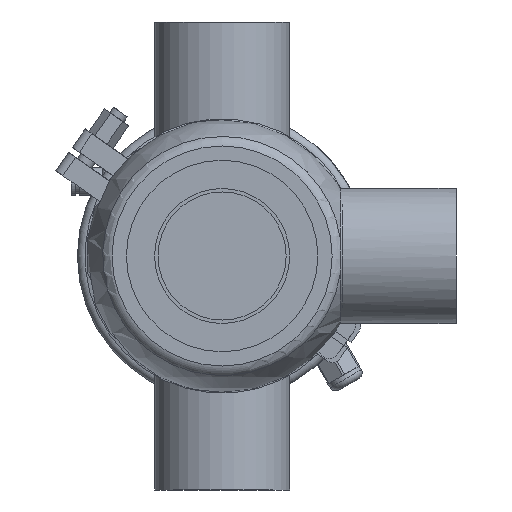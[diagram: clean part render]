
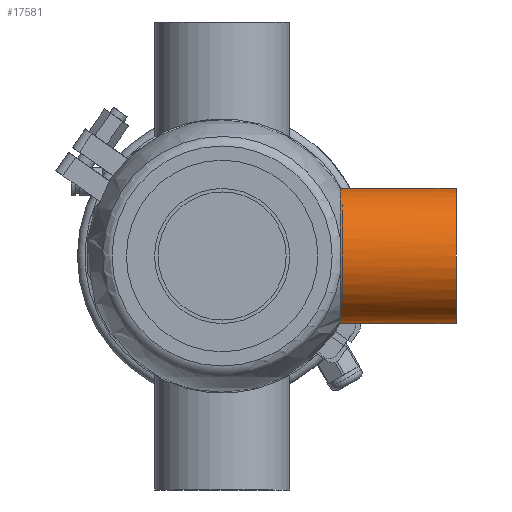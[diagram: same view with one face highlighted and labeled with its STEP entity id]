
A CAD part, front view. The second image highlights one B-rep face of the part: STEP entity #17581.
In plain terms, the highlighted cylindrical face has radius 31.75 mm (diameter 63.5 mm), a full revolution.
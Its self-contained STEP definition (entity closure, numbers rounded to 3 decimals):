
#1953 = FACE_OUTER_BOUND ( 'NONE', #54781, .T. ) ;
#4187 = CARTESIAN_POINT ( 'NONE',  ( 55.569, -30.657, 8.258 ) ) ;
#6865 = CARTESIAN_POINT ( 'NONE',  ( 0., 0., 0. ) ) ;
#7739 = CARTESIAN_POINT ( 'NONE',  ( 55.447, -31.729, -1.361 ) ) ;
#7885 = CARTESIAN_POINT ( 'NONE',  ( 55.569, -30.657, -8.258 ) ) ;
#8963 = CARTESIAN_POINT ( 'NONE',  ( 55.468, -31.657, 2.799 ) ) ;
#11130 = EDGE_CURVE ( 'NONE', #43494, #29625, #55368, .T. ) ;
#14443 = DIRECTION ( 'NONE',  ( 0., 0., 1. ) ) ;
#15665 = CARTESIAN_POINT ( 'NONE',  ( 110., 0., 0. ) ) ;
#17088 = CARTESIAN_POINT ( 'NONE',  ( 55.569, -31.022, 6.904 ) ) ;
#17581 = ADVANCED_FACE ( 'NONE', ( #59575, #1953 ), #58660, .T. ) ;
#17997 = ORIENTED_EDGE ( 'NONE', *, *, #58810, .T. ) ;
#18308 = CARTESIAN_POINT ( 'NONE',  ( 55.569, -31.022, -6.903 ) ) ;
#20779 = EDGE_LOOP ( 'NONE', ( #26779, #27897 ) ) ;
#22063 = CARTESIAN_POINT ( 'NONE',  ( 55.468, -31.638, -2.759 ) ) ;
#22374 = CARTESIAN_POINT ( 'NONE',  ( 55.532, -31.293, 5.541 ) ) ;
#25777 = DIRECTION ( 'NONE',  ( 0., 0., 1. ) ) ;
#26200 = DIRECTION ( 'NONE',  ( 0., 0., 1. ) ) ;
#26779 = ORIENTED_EDGE ( 'NONE', *, *, #11130, .T. ) ;
#27249 = CARTESIAN_POINT ( 'NONE',  ( 55.569, -30.657, 8.258 ) ) ;
#27869 = CARTESIAN_POINT ( 'NONE',  ( 55.442, -31.749, 1.419 ) ) ;
#27897 = ORIENTED_EDGE ( 'NONE', *, *, #52022, .T. ) ;
#29625 = VERTEX_POINT ( 'NONE', #4187 ) ;
#32533 = CARTESIAN_POINT ( 'NONE',  ( 55.442, -31.751, -0.664 ) ) ;
#34283 = AXIS2_PLACEMENT_3D ( 'NONE', #15665, #47831, #14443 ) ;
#35030 = DIRECTION ( 'NONE',  ( -1., 0., 0. ) ) ;
#35520 = AXIS2_PLACEMENT_3D ( 'NONE', #46337, #46027, #26200 ) ;
#36538 = CARTESIAN_POINT ( 'NONE',  ( 55.532, -31.295, -5.534 ) ) ;
#41374 = B_SPLINE_CURVE_WITH_KNOTS ( 'NONE', 3,
 ( #27249, #17088, #22374, #8963, #27869, #32533, #7739, #22063, #45560, #36538, #18308, #51489 ),
 .UNSPECIFIED., .F., .F.,
 ( 4, 2, 2, 2, 2, 4 ),
 ( 0., 0.004, 0.008, 0.01, 0.012, 0.017 ),
 .UNSPECIFIED. ) ;
#43494 = VERTEX_POINT ( 'NONE', #7885 ) ;
#44723 = AXIS2_PLACEMENT_3D ( 'NONE', #6865, #35030, #25777 ) ;
#45560 = CARTESIAN_POINT ( 'NONE',  ( 55.483, -31.569, -3.456 ) ) ;
#46027 = DIRECTION ( 'NONE',  ( 1., 0., 0. ) ) ;
#46337 = CARTESIAN_POINT ( 'NONE',  ( 55.569, 0., 0. ) ) ;
#47682 = CARTESIAN_POINT ( 'NONE',  ( 110., 0., 31.75 ) ) ;
#47831 = DIRECTION ( 'NONE',  ( -1., 0., 0. ) ) ;
#51489 = CARTESIAN_POINT ( 'NONE',  ( 55.569, -30.657, -8.258 ) ) ;
#52022 = EDGE_CURVE ( 'NONE', #29625, #43494, #41374, .T. ) ;
#52080 = VERTEX_POINT ( 'NONE', #47682 ) ;
#54781 = EDGE_LOOP ( 'NONE', ( #17997 ) ) ;
#55368 = CIRCLE ( 'NONE', #35520, 31.75 ) ;
#58660 = CYLINDRICAL_SURFACE ( 'NONE', #44723, 31.75 ) ;
#58810 = EDGE_CURVE ( 'NONE', #52080, #52080, #60088, .T. ) ;
#59575 = FACE_OUTER_BOUND ( 'NONE', #20779, .T. ) ;
#60088 = CIRCLE ( 'NONE', #34283, 31.75 ) ;
